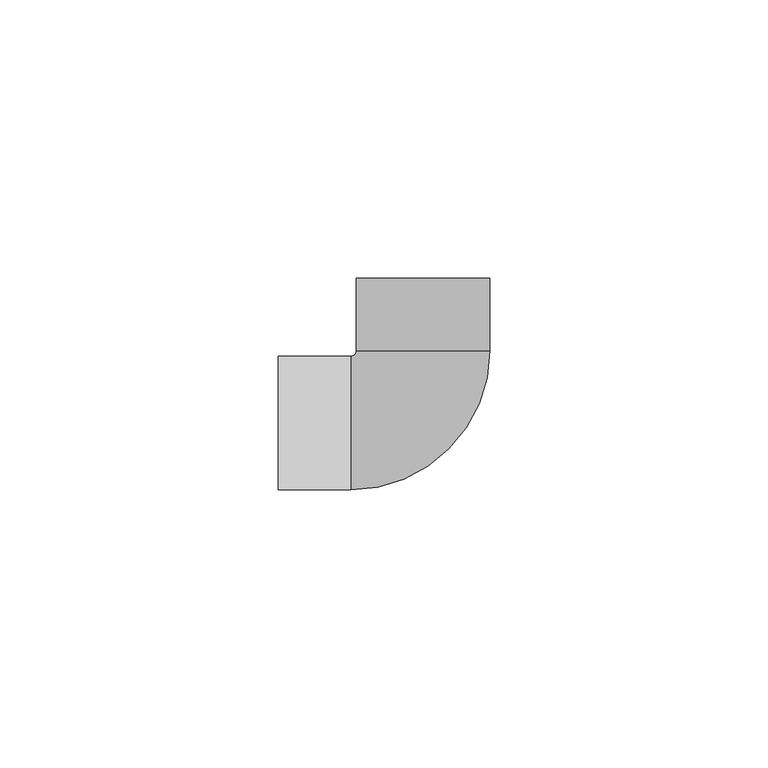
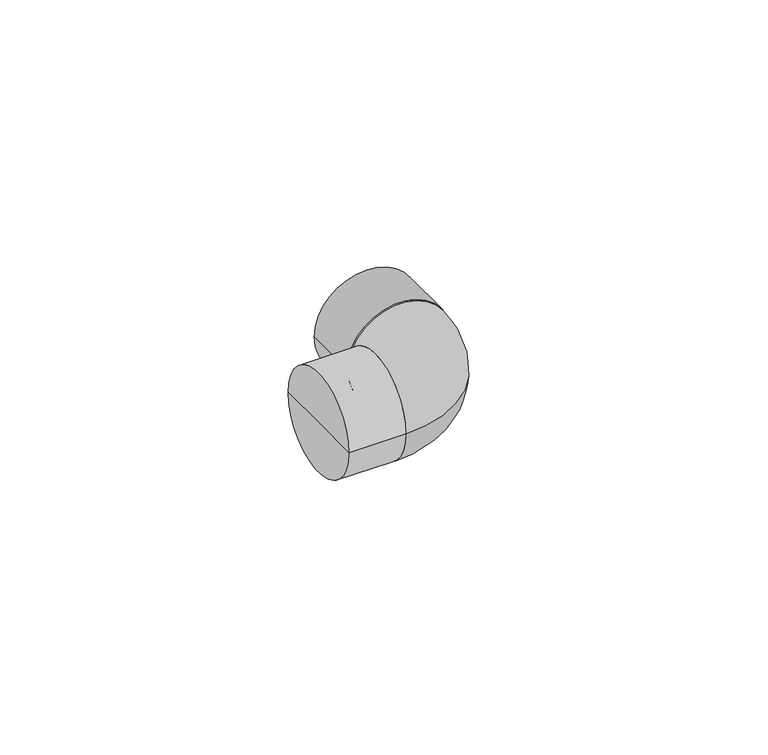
"""IFC4 building model written with IfcOpenShell, lengths in millimetres: pipe fitting geometry, KAN-therm PP kolano 45,90 : KAN-therm PP kolano 45,90."""

from ifc_helpers import new_model, si_unit, point, frame, origin, place, context, project, spatial, circle_curve, ellipse_curve, trimmed, source, transform, mapped, element, save
from ifc_brep_helpers import plane_surface, cylinder_surface, revolved_surface, advanced_brep


def pipe_fitting_11c5de82(model_context):
    return source(origin(), model_context, "Body", "AdvancedBrep", [
        advanced_brep(
        [(-26.0, 12.0, 0.0), (-26.0, -12.0, 0.0), (-26.0, 0.0, 0.0), (-13.0, 12.0, 0.0), (-13.0, -12.0, 0.0), (-13.0, 0.0, 0.0)],
        [
            (0, 1, circle_curve(frame((-26.0, 0.0, 0.0), z_axis=(-1.0, 0.0, 0.0), x_axis=(0.0, -1.0, 0.0)), 12.0)),
            (1, 2),
            (2, 0),
            (1, 0, circle_curve(frame((-26.0, 0.0, 0.0), z_axis=(-1.0, 0.0, 0.0), x_axis=(0.0, -1.0, 0.0)), 12.0)),
            (3, 4, circle_curve(frame((-13.0, 0.0, 0.0), z_axis=(-1.0, 0.0, 0.0), x_axis=(0.0, -1.0, 0.0)), 12.0)),
            (4, 1),
            (0, 3),
            (4, 3, circle_curve(frame((-13.0, 0.0, 0.0), z_axis=(-1.0, 0.0, 0.0), x_axis=(0.0, -1.0, 0.0)), 12.0)),
            (5, 4),
            (3, 5),
        ],
        [
            plane_surface(frame((-26.0, 0.0, 0.0), z_axis=(-1.0, 0.0, 0.0), x_axis=(0.0, -1.0, 0.0))),
            cylinder_surface(frame((2000.0, 0.0, 0.0), z_axis=(1.0, 0.0, 0.0), x_axis=(0.0, -1.0, 0.0)), 12.0),
            plane_surface(frame((-13.0, 0.0, 0.0), z_axis=(1.0, 0.0, 0.0), x_axis=(0.0, -1.0, 0.0))),
        ],
        [
            (0, [[1, 2, 3]]),
            (0, [[4, -3, -2]]),
            (1, [[5, 6, -1, 7]]),
            (1, [[8, -7, -4, -6]]),
            (2, [[9, -5, 10]]),
            (2, [[-10, -8, -9]]),
        ],
    ),
        advanced_brep(
        [(-12.0, 13.0, 0.0), (12.0, 13.0, 0.0), (0.0, 13.0, 0.0), (-12.0, 26.0, 0.0), (12.0, 26.0, 0.0), (0.0, 26.0, 0.0)],
        [
            (0, 1, circle_curve(frame((0.0, 13.0, 0.0), z_axis=(0.0, -1.0, 0.0), x_axis=(1.0, 0.0, 0.0)), 12.0)),
            (1, 2),
            (2, 0),
            (1, 0, circle_curve(frame((0.0, 13.0, 0.0), z_axis=(0.0, -1.0, 0.0), x_axis=(1.0, 0.0, 0.0)), 12.0)),
            (3, 4, circle_curve(frame((0.0, 26.0, 0.0), z_axis=(0.0, -1.0, 0.0), x_axis=(1.0, 0.0, 0.0)), 12.0)),
            (4, 1),
            (0, 3),
            (4, 3, circle_curve(frame((0.0, 26.0, 0.0), z_axis=(0.0, -1.0, 0.0), x_axis=(1.0, 0.0, 0.0)), 12.0)),
            (5, 4),
            (3, 5),
        ],
        [
            plane_surface(frame((0.0, 13.0, 0.0), z_axis=(0.0, -1.0, 0.0), x_axis=(1.0, 0.0, 0.0))),
            cylinder_surface(frame((0.0, 0.0, 0.0), z_axis=(0.0, 1.0, 0.0), x_axis=(1.0, 0.0, 0.0)), 12.0),
            plane_surface(frame((0.0, 26.0, 0.0), z_axis=(0.0, 1.0, 0.0), x_axis=(1.0, 0.0, 0.0))),
        ],
        [
            (0, [[1, 2, 3]]),
            (0, [[4, -3, -2]]),
            (1, [[5, 6, -1, 7]]),
            (1, [[8, -7, -4, -6]]),
            (2, [[9, -5, 10]]),
            (2, [[-10, -8, -9]]),
        ],
    ),
        advanced_brep(
        [(-13.0, -12.0, 0.0), (-13.0, 12.0, 0.0), (12.0, 13.0, 0.0), (-12.0, 13.0, 0.0)],
        [
            (0, 1, circle_curve(frame((-13.0, 0.0, 0.0), z_axis=(-1.0, 0.0, 0.0), x_axis=(0.0, 1.0, 0.0)), 12.0)),
            (1, 0, circle_curve(frame((-13.0, 0.0, 0.0), z_axis=(-1.0, 0.0, 0.0), x_axis=(0.0, 1.0, 0.0)), 12.0)),
            (2, 3, circle_curve(frame((0.0, 13.0, 0.0), z_axis=(0.0, 1.0, 0.0), x_axis=(-1.0, 0.0, 0.0)), 12.0)),
            (3, 2, circle_curve(frame((0.0, 13.0, 0.0), z_axis=(0.0, 1.0, 0.0), x_axis=(-1.0, 0.0, 0.0)), 12.0)),
            (3, 1, circle_curve(frame((-13.0, 13.0, 0.0), z_axis=(0.0, 0.0, -1.0), x_axis=(0.0, -1.0, 0.0)), 1.0)),
            (0, 2, circle_curve(frame((-13.0, 13.0, 0.0), z_axis=(0.0, 0.0, 1.0), x_axis=(0.0, -1.0, 0.0)), 25.0)),
        ],
        [
            plane_surface(frame((-13.0, 0.0, 0.0), z_axis=(-1.0, 0.0, 0.0), x_axis=(0.0, 0.0, 1.0))),
            plane_surface(frame((0.0, 13.0, 0.0), z_axis=(0.0, 1.0, 0.0), x_axis=(0.0, 0.0, 1.0))),
            revolved_surface(trimmed(ellipse_curve(frame((-13.0, 0.0, 0.0), z_axis=(-1.0, 0.0, 0.0), x_axis=(0.0, 1.0, 0.0)), 12.0, 12.0), [point((-13.0, -12.0, 0.0))], [point((-13.0, 12.0, 0.0))], True, "CARTESIAN"), (-13.0, 13.0, 0.0), (0.0, 0.0, 1.0)),
            revolved_surface(trimmed(ellipse_curve(frame((-13.0, 0.0, 0.0), z_axis=(-1.0, 0.0, 0.0), x_axis=(0.0, 1.0, 0.0)), 12.0, 12.0), [point((-13.0, 12.0, 0.0))], [point((-13.0, -12.0, 0.0))], True, "CARTESIAN"), (-13.0, 13.0, 0.0), (0.0, 0.0, 1.0)),
        ],
        [
            (0, [[1, 2]]),
            (1, [[3, 4]]),
            (2, [[5, -1, 6, -4]]),
            (3, [[-6, -2, -5, -3]]),
        ],
    ),
    ])


if __name__ == "__main__":
    model = new_model("IFC4")
    model_context = context("Model", 3, world=origin())
    ifc_project = project(units=[si_unit("LENGTHUNIT", "METRE", prefix="MILLI")], contexts=[model_context])
    site = spatial("IfcSite", under=ifc_project)
    building = spatial("IfcBuilding", under=site)
    placement = place(None, origin())
    pipe_fitting_shape = pipe_fitting_11c5de82(model_context)
    element("IfcPipeFitting", 1, ObjectType="KAN-therm PP kolano 45,90 : KAN-therm PP kolano 45,90", at=placement, inside=building, context=model_context, shape_type="MappedRepresentation", body=[
        mapped(pipe_fitting_shape, transform((0.0, 0.0, 0.0), x_axis=(1.0, 0.0, 0.0), y_axis=(0.0, 1.0, 0.0), z_axis=(0.0, 0.0, 1.0))),
    ])
    save(model, "model.ifc")
